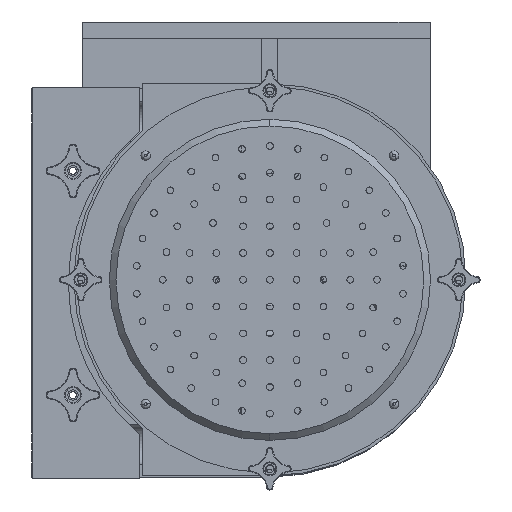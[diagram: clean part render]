
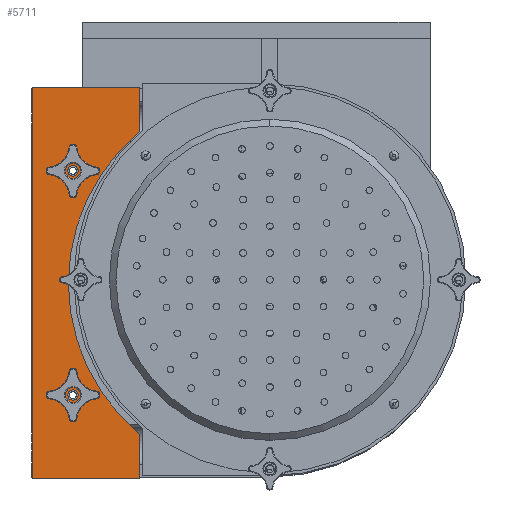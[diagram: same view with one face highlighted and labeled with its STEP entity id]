
A CAD part, top view. The second image highlights one B-rep face of the part: STEP entity #5711.
In plain terms, the highlighted planar face has unit normal (0, 0, 1).
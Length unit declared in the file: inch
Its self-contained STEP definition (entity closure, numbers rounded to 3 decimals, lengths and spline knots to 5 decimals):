
#1041 = ORIENTED_EDGE ( 'NONE', *, *, #6966, .T. ) ;
#1234 = ORIENTED_EDGE ( 'NONE', *, *, #7097, .T. ) ;
#1235 = ORIENTED_EDGE ( 'NONE', *, *, #7105, .F. ) ;
#1241 = ORIENTED_EDGE ( 'NONE', *, *, #7049, .F. ) ;
#1242 = ORIENTED_EDGE ( 'NONE', *, *, #7117, .T. ) ;
#1244 = ORIENTED_EDGE ( 'NONE', *, *, #7042, .T. ) ;
#1273 = ORIENTED_EDGE ( 'NONE', *, *, #7137, .T. ) ;
#1401 = ORIENTED_EDGE ( 'NONE', *, *, #6904, .T. ) ;
#1405 = ORIENTED_EDGE ( 'NONE', *, *, #6943, .T. ) ;
#1406 = ORIENTED_EDGE ( 'NONE', *, *, #7035, .T. ) ;
#1440 = ORIENTED_EDGE ( 'NONE', *, *, #7107, .T. ) ;
#3291 = VERTEX_POINT ( 'NONE', #14998 ) ;
#3294 = VERTEX_POINT ( 'NONE', #14970 ) ;
#3298 = VERTEX_POINT ( 'NONE', #14949 ) ;
#3299 = VERTEX_POINT ( 'NONE', #14948 ) ;
#3302 = VERTEX_POINT ( 'NONE', #14968 ) ;
#3304 = VERTEX_POINT ( 'NONE', #15061 ) ;
#3305 = VERTEX_POINT ( 'NONE', #15064 ) ;
#3307 = VERTEX_POINT ( 'NONE', #15055 ) ;
#3387 = VERTEX_POINT ( 'NONE', #14889 ) ;
#3388 = VERTEX_POINT ( 'NONE', #14888 ) ;
#3396 = VERTEX_POINT ( 'NONE', #14880 ) ;
#3826 = AXIS2_PLACEMENT_3D ( 'NONE', #19319, #19316, #19323 ) ;
#3909 = AXIS2_PLACEMENT_3D ( 'NONE', #24008, #24009, #24010 ) ;
#3915 = AXIS2_PLACEMENT_3D ( 'NONE', #24079, #24080, #24081 ) ;
#3917 = AXIS2_PLACEMENT_3D ( 'NONE', #24099, #24100, #24101 ) ;
#3929 = AXIS2_PLACEMENT_3D ( 'NONE', #24172, #24173, #24174 ) ;
#3940 = AXIS2_PLACEMENT_3D ( 'NONE', #24293, #24294, #24295 ) ;
#3945 = AXIS2_PLACEMENT_3D ( 'NONE', #24327, #24328, #24329 ) ;
#5711 = ADVANCED_FACE ( 'NONE', ( #14386, #14389, #14385 ), #19321, .F. ) ;
#6904 = EDGE_CURVE ( 'NONE', #3396, #3294, #24472, .T. ) ;
#6943 = EDGE_CURVE ( 'NONE', #3291, #3304, #24498, .T. ) ;
#6966 = EDGE_CURVE ( 'NONE', #3305, #3387, #24512, .T. ) ;
#7035 = EDGE_CURVE ( 'NONE', #3294, #3396, #24562, .T. ) ;
#7042 = EDGE_CURVE ( 'NONE', #3388, #3299, #24571, .T. ) ;
#7049 = EDGE_CURVE ( 'NONE', #3298, #3299, #24576, .T. ) ;
#7097 = EDGE_CURVE ( 'NONE', #3307, #3302, #24609, .T. ) ;
#7105 = EDGE_CURVE ( 'NONE', #3307, #3298, #24604, .T. ) ;
#7107 = EDGE_CURVE ( 'NONE', #3302, #3305, #24614, .T. ) ;
#7117 = EDGE_CURVE ( 'NONE', #3387, #3388, #24623, .T. ) ;
#7137 = EDGE_CURVE ( 'NONE', #3304, #3291, #24631, .T. ) ;
#9725 = EDGE_LOOP ( 'NONE', ( #1440, #1041, #1242, #1244, #1241, #1235, #1234 ) ) ;
#9759 = EDGE_LOOP ( 'NONE', ( #1406, #1401 ) ) ;
#9851 = EDGE_LOOP ( 'NONE', ( #1405, #1273 ) ) ;
#14385 = FACE_OUTER_BOUND ( 'NONE', #9725, .T. ) ;
#14386 = FACE_BOUND ( 'NONE', #9759, .T. ) ;
#14389 = FACE_BOUND ( 'NONE', #9851, .T. ) ;
#14880 = CARTESIAN_POINT ( 'NONE',  ( -7.34375, -3.9925, 3.5 ) ) ;
#14888 = CARTESIAN_POINT ( 'NONE',  ( -4.84375, 5.64808, 3.5 ) ) ;
#14889 = CARTESIAN_POINT ( 'NONE',  ( -7.51375, -0.0005, 3.5 ) ) ;
#14948 = CARTESIAN_POINT ( 'NONE',  ( -4.84375, 7.312, 3.5 ) ) ;
#14949 = CARTESIAN_POINT ( 'NONE',  ( -8.84375, 7.312, 3.5 ) ) ;
#14968 = CARTESIAN_POINT ( 'NONE',  ( -4.84375, -7.313, 3.5 ) ) ;
#14970 = CARTESIAN_POINT ( 'NONE',  ( -7.34375, -4.3835, 3.5 ) ) ;
#14998 = CARTESIAN_POINT ( 'NONE',  ( -7.34375, 3.9915, 3.5 ) ) ;
#15055 = CARTESIAN_POINT ( 'NONE',  ( -8.84375, -7.313, 3.5 ) ) ;
#15061 = CARTESIAN_POINT ( 'NONE',  ( -7.34375, 4.3825, 3.5 ) ) ;
#15064 = CARTESIAN_POINT ( 'NONE',  ( -4.84375, -5.64908, 3.5 ) ) ;
#19316 = DIRECTION ( 'NONE',  ( 0., 0., -1. ) ) ;
#19319 = CARTESIAN_POINT ( 'NONE',  ( -8.84375, 7.312, 3.5 ) ) ;
#19321 = PLANE ( 'NONE',  #3826 ) ;
#19323 = DIRECTION ( 'NONE',  ( 0., -1., 0. ) ) ;
#24008 = CARTESIAN_POINT ( 'NONE',  ( -7.34375, -4.188, 3.5 ) ) ;
#24009 = DIRECTION ( 'NONE',  ( 0., 0., -1. ) ) ;
#24010 = DIRECTION ( 'NONE',  ( 0., -1., 0. ) ) ;
#24079 = CARTESIAN_POINT ( 'NONE',  ( -7.34375, 4.187, 3.5 ) ) ;
#24080 = DIRECTION ( 'NONE',  ( 0., 0., -1. ) ) ;
#24081 = DIRECTION ( 'NONE',  ( 0., -1., 0. ) ) ;
#24099 = CARTESIAN_POINT ( 'NONE',  ( -0.20375, -0.0005, 3.5 ) ) ;
#24100 = DIRECTION ( 'NONE',  ( 0., 0., -1. ) ) ;
#24101 = DIRECTION ( 'NONE',  ( -1., 0., 0. ) ) ;
#24172 = CARTESIAN_POINT ( 'NONE',  ( -7.34375, -4.188, 3.5 ) ) ;
#24173 = DIRECTION ( 'NONE',  ( 0., 0., -1. ) ) ;
#24174 = DIRECTION ( 'NONE',  ( 0., -1., 0. ) ) ;
#24182 = CARTESIAN_POINT ( 'NONE',  ( -4.84375, 7.312, 3.5 ) ) ;
#24183 = DIRECTION ( 'NONE',  ( 0., 1., 0. ) ) ;
#24190 = CARTESIAN_POINT ( 'NONE',  ( -8.84375, 7.312, 3.5 ) ) ;
#24192 = DIRECTION ( 'NONE',  ( 1., 0., 0. ) ) ;
#24259 = CARTESIAN_POINT ( 'NONE',  ( -8.84375, -7.313, 3.5 ) ) ;
#24260 = DIRECTION ( 'NONE',  ( 1., 0., 0. ) ) ;
#24263 = DIRECTION ( 'NONE',  ( 0., 1., 0. ) ) ;
#24270 = CARTESIAN_POINT ( 'NONE',  ( -8.84375, 7.312, 3.5 ) ) ;
#24274 = CARTESIAN_POINT ( 'NONE',  ( -4.84375, 7.312, 3.5 ) ) ;
#24275 = DIRECTION ( 'NONE',  ( 0., 1., 0. ) ) ;
#24293 = CARTESIAN_POINT ( 'NONE',  ( -0.20375, -0.0005, 3.5 ) ) ;
#24294 = DIRECTION ( 'NONE',  ( 0., 0., -1. ) ) ;
#24295 = DIRECTION ( 'NONE',  ( -1., 0., 0. ) ) ;
#24327 = CARTESIAN_POINT ( 'NONE',  ( -7.34375, 4.187, 3.5 ) ) ;
#24328 = DIRECTION ( 'NONE',  ( 0., 0., -1. ) ) ;
#24329 = DIRECTION ( 'NONE',  ( 0., -1., 0. ) ) ;
#24472 = CIRCLE ( 'NONE', #3909, 0.1955 ) ;
#24498 = CIRCLE ( 'NONE', #3915, 0.1955 ) ;
#24512 = CIRCLE ( 'NONE', #3917, 7.31 ) ;
#24562 = CIRCLE ( 'NONE', #3929, 0.1955 ) ;
#24571 = LINE ( 'NONE', #24182, #24574 ) ;
#24574 = VECTOR ( 'NONE', #24183, 39.37008 ) ;
#24576 = LINE ( 'NONE', #24190, #24579 ) ;
#24579 = VECTOR ( 'NONE', #24192, 39.37008 ) ;
#24604 = LINE ( 'NONE', #24270, #24615 ) ;
#24609 = LINE ( 'NONE', #24259, #24610 ) ;
#24610 = VECTOR ( 'NONE', #24260, 39.37008 ) ;
#24614 = LINE ( 'NONE', #24274, #24617 ) ;
#24615 = VECTOR ( 'NONE', #24263, 39.37008 ) ;
#24617 = VECTOR ( 'NONE', #24275, 39.37008 ) ;
#24623 = CIRCLE ( 'NONE', #3940, 7.31 ) ;
#24631 = CIRCLE ( 'NONE', #3945, 0.1955 ) ;
